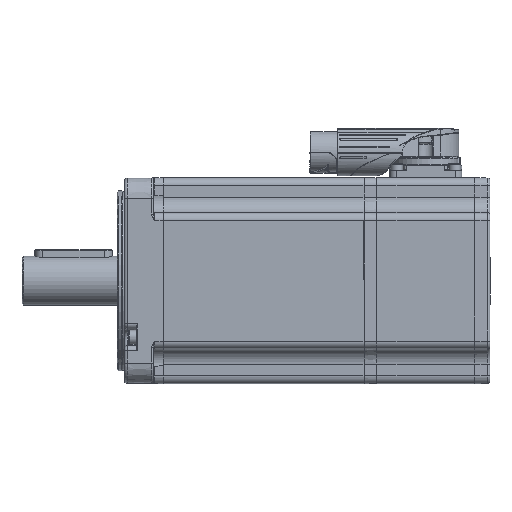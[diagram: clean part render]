
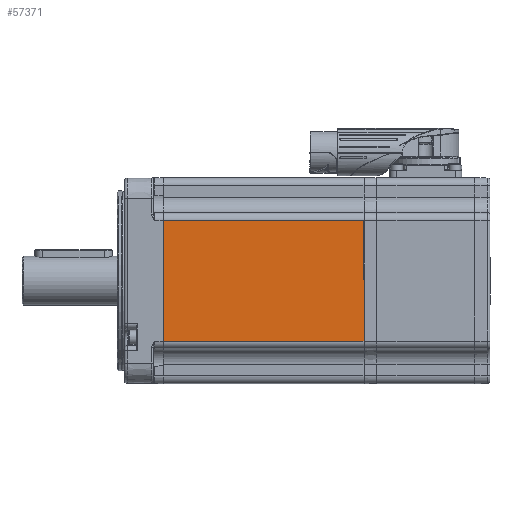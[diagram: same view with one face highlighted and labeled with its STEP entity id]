
A CAD part, left-side view. The second image highlights one B-rep face of the part: STEP entity #57371.
In plain terms, the highlighted planar face has unit normal (-1, 0, 0) as drawn and (0, -1, 0) by its records, which use the part's own axes.
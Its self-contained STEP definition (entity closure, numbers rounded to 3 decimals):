
#2753=LINE('',#75078,#5207);
#2761=LINE('',#75125,#5215);
#2768=LINE('',#75176,#5222);
#2769=LINE('',#75177,#5223);
#5207=VECTOR('',#64296,1000.);
#5215=VECTOR('',#64336,1000.);
#5222=VECTOR('',#64389,1000.);
#5223=VECTOR('',#64390,1000.);
#7654=PLANE('',#60125);
#8877=ORIENTED_EDGE('',*,*,#20881,.T.);
#8878=ORIENTED_EDGE('',*,*,#20859,.T.);
#8879=ORIENTED_EDGE('',*,*,#20882,.T.);
#8880=ORIENTED_EDGE('',*,*,#20836,.T.);
#20836=EDGE_CURVE('',#26846,#26845,#2753,.T.);
#20859=EDGE_CURVE('',#26869,#26868,#2761,.T.);
#20881=EDGE_CURVE('',#26845,#26869,#2768,.F.);
#20882=EDGE_CURVE('',#26868,#26846,#2769,.F.);
#26845=VERTEX_POINT('',#75077);
#26846=VERTEX_POINT('',#75079);
#26868=VERTEX_POINT('',#75124);
#26869=VERTEX_POINT('',#75126);
#32546=EDGE_LOOP('',(#8877,#8878,#8879,#8880));
#35814=FACE_BOUND('',#32546,.T.);
#57371=ADVANCED_FACE('',(#35814),#7654,.T.);
#60125=AXIS2_PLACEMENT_3D('',#75175,#64387,#64388);
#64296=DIRECTION('',(0.,0.,-1.));
#64336=DIRECTION('',(0.,0.,1.));
#64387=DIRECTION('',(0.,-1.,0.));
#64388=DIRECTION('',(0.,0.,-1.));
#64389=DIRECTION('',(-1.,0.,0.));
#64390=DIRECTION('',(1.,0.,0.));
#75077=CARTESIAN_POINT('',(-79.,-40.,-23.5));
#75078=CARTESIAN_POINT('',(-79.,-40.,40.));
#75079=CARTESIAN_POINT('',(-79.,-40.,23.5));
#75124=CARTESIAN_POINT('',(-1.,-40.,23.5));
#75125=CARTESIAN_POINT('',(-1.,-40.,40.));
#75126=CARTESIAN_POINT('',(-1.,-40.,-23.5));
#75175=CARTESIAN_POINT('',(-200.,-40.,40.));
#75176=CARTESIAN_POINT('',(0.,-40.,-23.5));
#75177=CARTESIAN_POINT('',(-200.,-40.,23.5));
